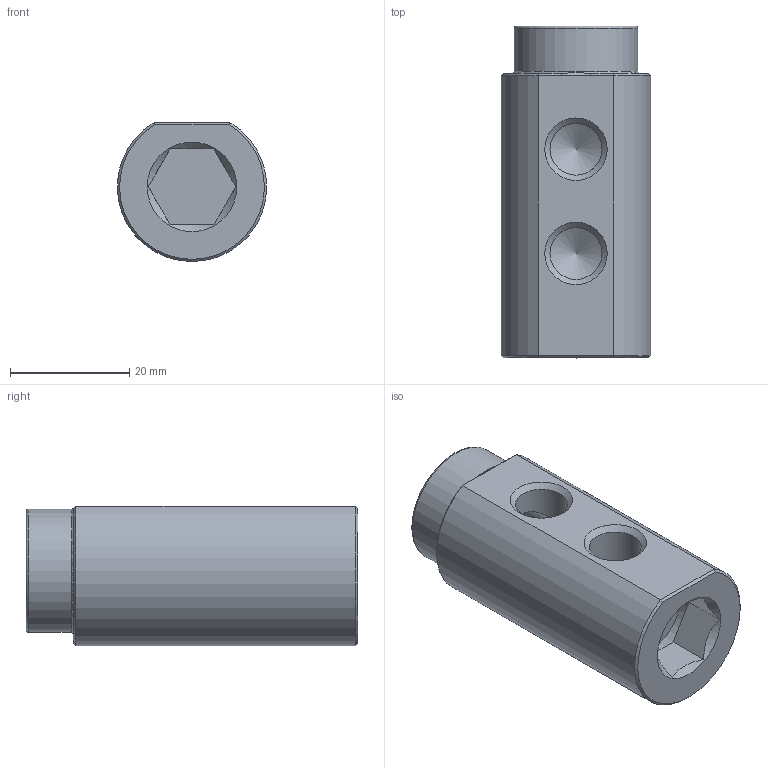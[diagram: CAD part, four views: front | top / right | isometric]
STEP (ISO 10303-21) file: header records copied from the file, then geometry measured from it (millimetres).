
FILE_DESCRIPTION(/* description */ (''),/* implementation_level */ '2;1');
FILE_NAME(/* name */ 'C:/Users/drich/Desktop/E146H v2.step',/* time_stamp */ '2019-11-18T13:43:26-06:00',/* author */ (''),/* organization */ (''),/* preprocessor_version */ 'ST-DEVELOPER v18',/* originating_system */ 'Autodesk Translation Framework v8.12.0.6',/* authorisation */ '');
FILE_SCHEMA (('AUTOMOTIVE_DESIGN { 1 0 10303 214 3 1 1 }'));
Length unit declared in the file: inch
Products named in the file (2): E146H; E146H-4
Assembly tree (1 placements, depth 2):
  E146H
    E146H-4
Bounding box: 25.02 x 55.55 x 23.29 mm (x, y, z)
Volume: 19099.4 mm3; surface area: 7214.4 mm2
Topology: 1 solids, 1 shells, 35 faces, 98 edges, 66 vertices
Faces by surface type: plane 15, cone 9, cylinder 8, torus 2, bspline 1
Full cylindrical faces by diameter (mm): 6.909 x1, 8.707 x3, 11.668 x1, 15.24 x1, 20.625 x1
Entity records: 1359 total; most frequent: CARTESIAN_POINT 434, ORIENTED_EDGE 192, DIRECTION 171, EDGE_CURVE 96, AXIS2_PLACEMENT_3D 67, VERTEX_POINT 66, EDGE_LOOP 42, LINE 37
